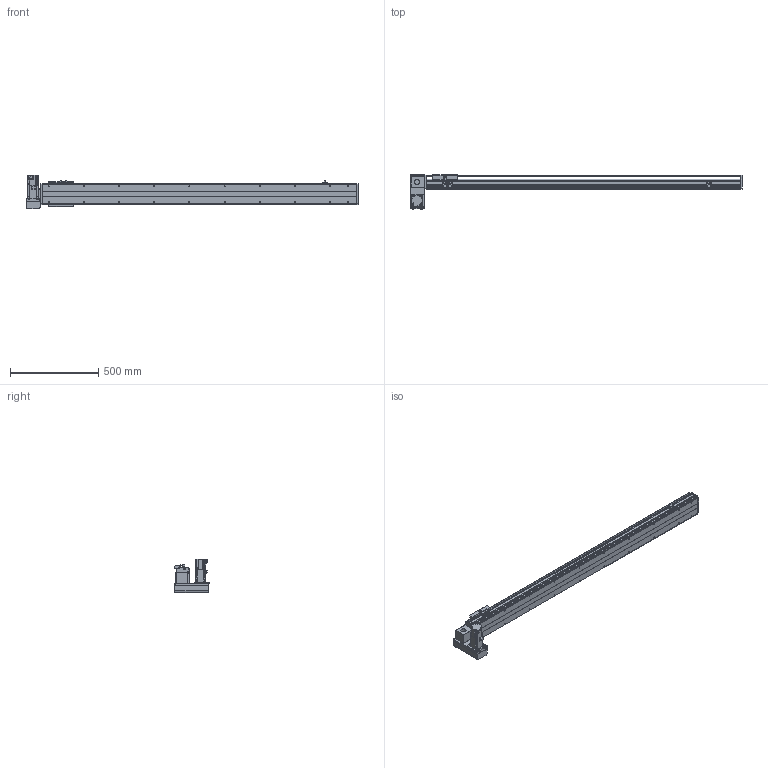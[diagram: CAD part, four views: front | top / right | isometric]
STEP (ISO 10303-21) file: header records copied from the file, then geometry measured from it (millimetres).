
FILE_DESCRIPTION(/* description */ ('STEP AP214'),/* implementation_level */ '2;1');
FILE_NAME(/* name */ 'PBS120-P40-S1500-LD-T40-C1-N(0)',/* time_stamp */ '2022-06-06T02:17:21+02:00',/* author */ ('License CC BY-ND 4.0'),/* organization */ ('CADENAS'),/* preprocessor_version */ 'ST-DEVELOPER v18.102',/* originating_system */ 'PARTsolutions',/* authorisation */ ' ');
FILE_SCHEMA (('AUTOMOTIVE_DESIGN {1 0 10303 214 3 1 1}'));
Length unit declared in the file: millimetre
Products named in the file (7): PBS120-P40-S1500-LD-T40-C1-N(0); PBS120_sensor; PBS120_plant; PBS120_sliser; T40-p1; PBS120T-LD_motors; PBS120-S1500()_body
Assembly tree (8 placements, depth 2):
  PBS120-P40-S1500-LD-T40-C1-N(0)
    PBS120_sensor  x3
    PBS120_plant
    PBS120_sliser
    T40-p1
    PBS120T-LD_motors
    PBS120-S1500()_body
Bounding box: 1886 x 196 x 189.7 mm (x, y, z)
Volume: 7588666.2 mm3; surface area: 1522902.4 mm2
Topology: 8 solids, 8 shells, 840 faces, 2176 edges, 1399 vertices
Faces by surface type: plane 553, cylinder 233, cone 52, torus 2
Full cylindrical faces by diameter (mm): 2.459 x6, 3.242 x4, 4 x2, 4.134 x4, 4.5 x10, 4.917 x24, 5.5 x11, 6 x2, 6.6 x1, 7 x2, 8.5 x4, 9 x4, 12 x1, 14 x1, 30 x2, 40 x1, 50 x2
Entity records: 21834 total; most frequent: DIRECTION 3788, CARTESIAN_POINT 3713, ORIENTED_EDGE 3526, EDGE_CURVE 1763, AXIS2_PLACEMENT_3D 1280, LINE 1228, VECTOR 1228, VERTEX_POINT 1205
